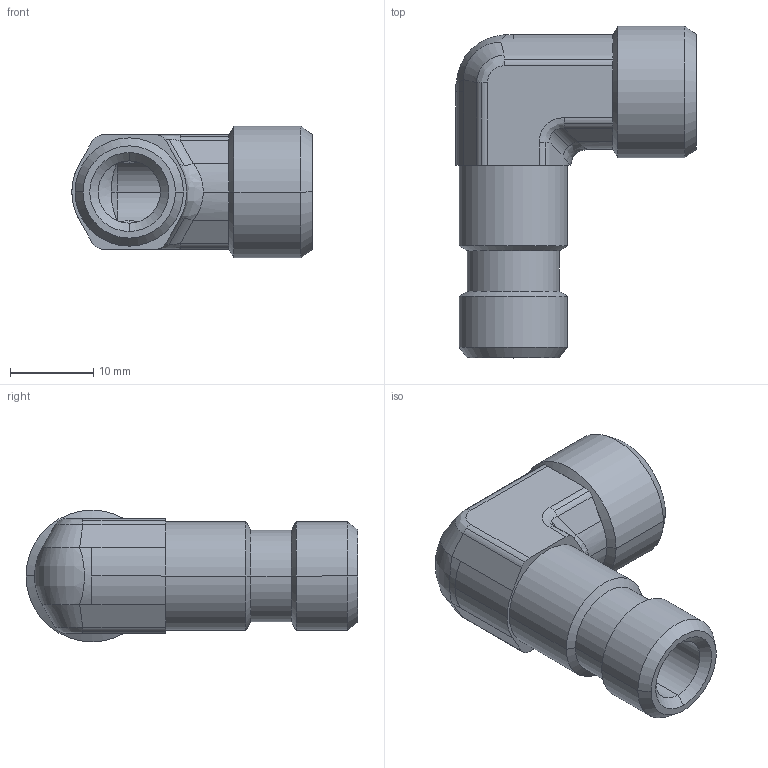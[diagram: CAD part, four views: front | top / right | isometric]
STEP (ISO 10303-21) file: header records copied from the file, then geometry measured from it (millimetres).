
FILE_DESCRIPTION((''),'2;1');
FILE_NAME('106106.stp','2007-10-31T14:51:15',(''),(''),'AutoCAD STEP 2000i','AutoCAD 2000i',', , ');
FILE_SCHEMA(('CONFIG_CONTROL_DESIGN'));
Length unit declared in the file: millimetre
Products named in the file (2): 106106.0; 3090#0
Assembly tree (1 placements, depth 2):
  106106.0
    3090#0
Bounding box: 28.9 x 39.92 x 15.85 mm (x, y, z)
Volume: 5214.9 mm3; surface area: 3914.2 mm2
Topology: 1 solids, 1 shells, 101 faces, 234 edges, 139 vertices
Faces by surface type: cylinder 46, plane 22, cone 21, bspline 12
Entity records: 3699 total; most frequent: CARTESIAN_POINT 1307, DIRECTION 498, ORIENTED_EDGE 468, EDGE_CURVE 234, AXIS2_PLACEMENT_3D 202, VERTEX_POINT 139, EDGE_LOOP 107, CIRCLE 101
